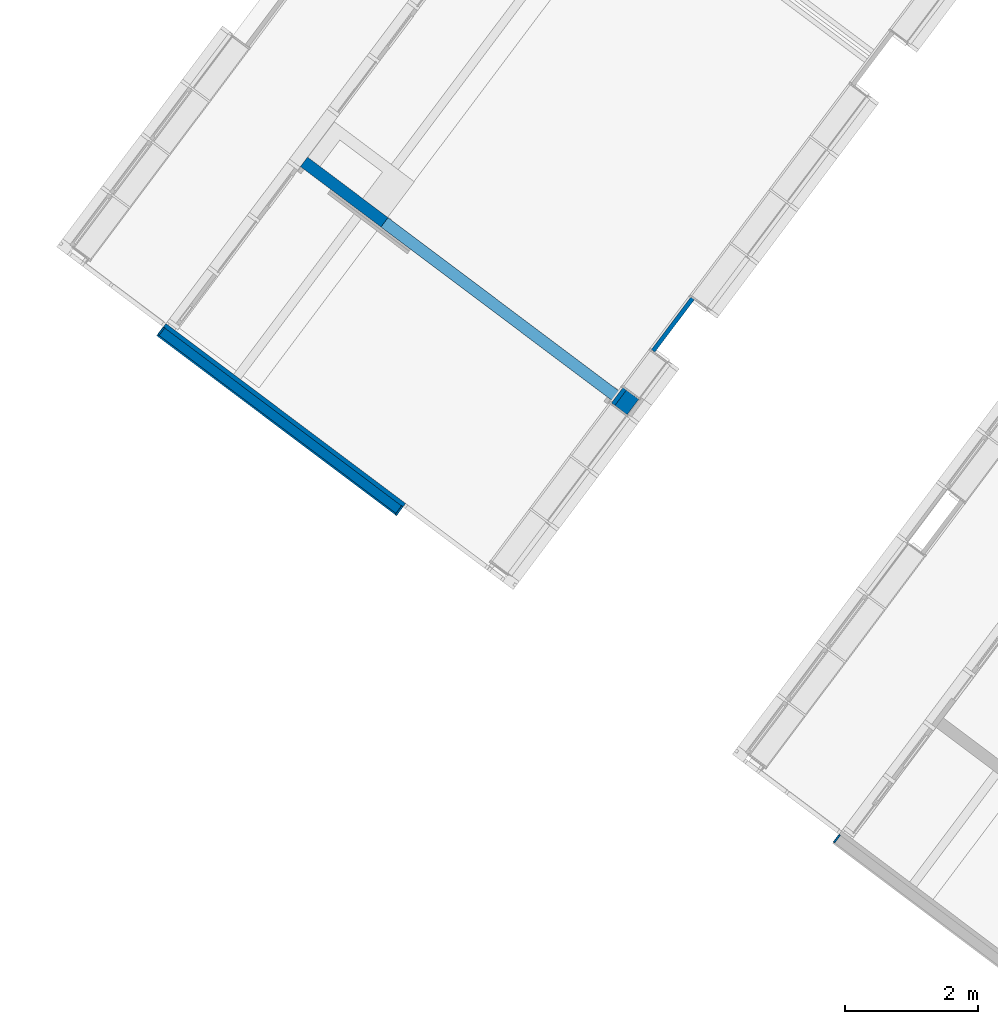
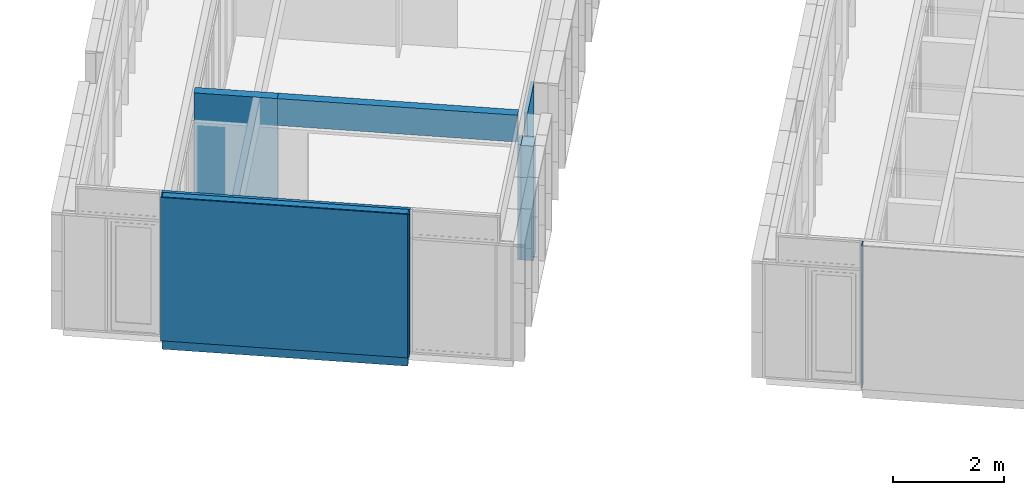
# One storey, part 116 of 243: 11 walls.
"""IFC2X3 building model written with IfcOpenShell, lengths in metres."""

from ifc_helpers import new_model, entity, si_unit, converted_unit, derived_unit, direction, frame, frame_2d, origin, place, context, subcontext, project, spatial, rectangle, extrude, material, layer, layer_set, layer_usage, type_object, element, save


model = new_model("IFC2X3")

# Units and contexts
model_context = context("Model", 3, precision=1e-05, world=origin(), true_north=direction((6.123031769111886e-17, 1.0)))
body_context = subcontext(model_context, "Body", "Model", "MODEL_VIEW")
ifc_project = project(units=[si_unit("LENGTHUNIT", "METRE"), si_unit("AREAUNIT", "SQUARE_METRE"), si_unit("VOLUMEUNIT", "CUBIC_METRE"), converted_unit("PLANEANGLEUNIT", "DEGREE", entity("IfcRatioMeasure", 0.017453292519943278), si_unit("PLANEANGLEUNIT", "RADIAN"), dimensions=[0, 0, 0, 0, 0, 0, 0]), si_unit("MASSUNIT", "GRAM", prefix="KILO"), derived_unit("MASSDENSITYUNIT", [(si_unit("MASSUNIT", "GRAM", prefix="KILO"), 1), (si_unit("LENGTHUNIT", "METRE"), -3)]), derived_unit("IONCONCENTRATIONUNIT", [(si_unit("MASSUNIT", "GRAM", prefix="KILO"), 1), (si_unit("LENGTHUNIT", "METRE"), -3)]), derived_unit("MOMENTOFINERTIAUNIT", [(si_unit("LENGTHUNIT", "METRE"), 4)]), si_unit("TIMEUNIT", "SECOND"), si_unit("FREQUENCYUNIT", "HERTZ"), si_unit("THERMODYNAMICTEMPERATUREUNIT", "DEGREE_CELSIUS"), derived_unit("THERMALTRANSMITTANCEUNIT", [(si_unit("MASSUNIT", "GRAM", prefix="KILO"), 1), (si_unit("THERMODYNAMICTEMPERATUREUNIT", "KELVIN"), -1), (si_unit("TIMEUNIT", "SECOND"), -3)]), derived_unit("THERMALCONDUCTANCEUNIT", [(si_unit("MASSUNIT", "GRAM", prefix="KILO"), 1), (si_unit("THERMODYNAMICTEMPERATUREUNIT", "KELVIN"), -1), (si_unit("TIMEUNIT", "SECOND"), -3), (si_unit("LENGTHUNIT", "METRE"), 1)]), derived_unit("VOLUMETRICFLOWRATEUNIT", [(si_unit("LENGTHUNIT", "METRE"), 3), (si_unit("TIMEUNIT", "SECOND"), -1)]), derived_unit("MASSFLOWRATEUNIT", [(si_unit("MASSUNIT", "GRAM", prefix="KILO"), 1), (si_unit("TIMEUNIT", "SECOND"), -1)]), derived_unit("ROTATIONALFREQUENCYUNIT", [(si_unit("TIMEUNIT", "SECOND"), -1)]), si_unit("ELECTRICCURRENTUNIT", "AMPERE"), si_unit("ELECTRICVOLTAGEUNIT", "VOLT"), si_unit("POWERUNIT", "WATT"), si_unit("FORCEUNIT", "NEWTON", prefix="KILO"), si_unit("ILLUMINANCEUNIT", "LUX"), si_unit("LUMINOUSFLUXUNIT", "LUMEN"), si_unit("LUMINOUSINTENSITYUNIT", "CANDELA"), derived_unit("USERDEFINED", [(si_unit("MASSUNIT", "GRAM", prefix="KILO"), -1), (si_unit("LENGTHUNIT", "METRE"), -2), (si_unit("TIMEUNIT", "SECOND"), 3), (si_unit("LUMINOUSFLUXUNIT", "LUMEN"), 1)]), derived_unit("USERDEFINED", [(si_unit("MASSUNIT", "GRAM", prefix="KILO"), 1), (si_unit("TIMEUNIT", "SECOND"), -3), (si_unit("LENGTHUNIT", "METRE"), 3), (si_unit("ELECTRICCURRENTUNIT", "AMPERE"), -2)]), derived_unit("SOUNDPOWERUNIT", [(si_unit("MASSUNIT", "GRAM", prefix="KILO"), 1), (si_unit("TIMEUNIT", "SECOND"), -3), (si_unit("LENGTHUNIT", "METRE"), 2)]), derived_unit("SOUNDPRESSUREUNIT", [(si_unit("MASSUNIT", "GRAM", prefix="KILO"), 1), (si_unit("LENGTHUNIT", "METRE"), -1), (si_unit("TIMEUNIT", "SECOND"), -2)]), derived_unit("LINEARVELOCITYUNIT", [(si_unit("LENGTHUNIT", "METRE"), 1), (si_unit("TIMEUNIT", "SECOND"), -1)]), si_unit("PRESSUREUNIT", "PASCAL"), derived_unit("USERDEFINED", [(si_unit("MASSUNIT", "GRAM", prefix="KILO"), 1), (si_unit("LENGTHUNIT", "METRE"), -2), (si_unit("TIMEUNIT", "SECOND"), -2)]), derived_unit("LINEARFORCEUNIT", [(si_unit("MASSUNIT", "GRAM", prefix="KILO"), 1), (si_unit("TIMEUNIT", "SECOND"), -2)]), derived_unit("PLANARFORCEUNIT", [(si_unit("MASSUNIT", "GRAM", prefix="KILO"), 1), (si_unit("LENGTHUNIT", "METRE"), -1), (si_unit("TIMEUNIT", "SECOND"), -2)]), derived_unit("SPECIFICHEATCAPACITYUNIT", [(si_unit("THERMODYNAMICTEMPERATUREUNIT", "KELVIN"), -1), (si_unit("LENGTHUNIT", "METRE"), 2), (si_unit("TIMEUNIT", "SECOND"), -2)]), derived_unit("HEATINGVALUEUNIT", [(si_unit("LENGTHUNIT", "METRE"), 2), (si_unit("TIMEUNIT", "SECOND"), -2)]), derived_unit("VAPORPERMEABILITYUNIT", [(si_unit("LENGTHUNIT", "METRE"), -1), (si_unit("TIMEUNIT", "SECOND"), 1)]), derived_unit("DYNAMICVISCOSITYUNIT", [(si_unit("MASSUNIT", "GRAM", prefix="KILO"), 1), (si_unit("TIMEUNIT", "SECOND"), -1), (si_unit("LENGTHUNIT", "METRE"), -1)]), derived_unit("THERMALEXPANSIONCOEFFICIENTUNIT", [(si_unit("THERMODYNAMICTEMPERATUREUNIT", "KELVIN"), -1)]), derived_unit("MODULUSOFELASTICITYUNIT", [(si_unit("MASSUNIT", "GRAM", prefix="KILO"), 1), (si_unit("LENGTHUNIT", "METRE"), -1), (si_unit("TIMEUNIT", "SECOND"), -2)]), derived_unit("ISOTHERMALMOISTURECAPACITYUNIT", [(si_unit("LENGTHUNIT", "METRE"), 3), (si_unit("MASSUNIT", "GRAM", prefix="KILO"), -1)]), derived_unit("MOISTUREDIFFUSIVITYUNIT", [(si_unit("TIMEUNIT", "SECOND"), -1), (si_unit("LENGTHUNIT", "METRE"), 2)])], contexts=[model_context])

# Site, building, storey
site_placement = place(None, frame((0.0, 0.0, 235.0), z_axis=(0.0, 0.0, 1.0), x_axis=(-0.7996477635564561, 0.6004693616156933, 0.0)))
site = spatial("IfcSite", under=ifc_project, at=site_placement, Name="Default", CompositionType="ELEMENT")
building_placement = place(site_placement, origin())
building = spatial("IfcBuilding", under=site, at=building_placement, CompositionType="ELEMENT")
storey_placement = place(building_placement, origin())
storey = spatial("IfcBuildingStorey", under=building, at=storey_placement, Name="P0- Escola", CompositionType="ELEMENT", Elevation=0.0)

# Walls
ifc_material_1 = material(Name="_Ceràmica- ENV")
ifc_layer_1 = layer(ifc_material_1, 0.14)
ifc_layer_set_1 = layer_set([ifc_layer_1], Name="Muro básico:ENV- Ceràmic- 14 cm")
ifc_layer_usage_1 = layer_usage(ifc_layer_set_1, "AXIS2", "NEGATIVE", 0.07)
wall_type_1 = type_object("IfcWallType", Name="Muro básico:ENV- Ceràmic- 14 cm", PredefinedType="STANDARD", material=ifc_layer_set_1)
wall_1_placement = place(storey_placement, frame((43.00014360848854, -20.21894175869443, -0.2)))
element("IfcWallStandardCase", 1, at=wall_1_placement, inside=storey, type_object=wall_type_1, material=ifc_layer_usage_1, Name="Muro básico:ENV- Ceràmic- 14 cm", ObjectType="Muro básico:ENV- Ceràmic- 14 cm", context=body_context, shape_type="SweptSolid", body=[
    extrude(rectangle(XDim=4.4550040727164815, YDim=0.14000000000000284, at=frame_2d((2.2275020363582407, -1.1449174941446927e-15), x_axis=(-1.0, 0.0))), origin(), (0.0, 0.0, 1.0), 3.350000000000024),
])
ifc_material_2 = material(Name="_Guix laminat- ENV")
ifc_layer_2 = layer(ifc_material_2, 0.02)
ifc_material_3 = material(Name="_Aillament")
ifc_layer_3 = layer(ifc_material_3, 0.045)
ifc_layer_set_2 = layer_set([ifc_layer_2, ifc_layer_3], Name="Muro básico:REV- Guix Laminat Extradossat- Aillament- T1- 6,5 cm")
ifc_layer_usage_2 = layer_usage(ifc_layer_set_2, "AXIS2", "NEGATIVE", 0.032499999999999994)
wall_type_2 = type_object("IfcWallType", Name="Muro básico:REV- Guix Laminat Extradossat- Aillament- T1- 6,5 cm", PredefinedType="STANDARD", material=ifc_layer_set_2)
wall_2_placement = place(storey_placement, frame((41.377647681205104, -24.42019175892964, 0.0), z_axis=(0.0, 0.0, 1.0), x_axis=(0.0, -1.0, 0.0)))
element("IfcWallStandardCase", 2, at=wall_2_placement, inside=storey, type_object=wall_type_2, material=ifc_layer_usage_2, Name="Muro básico:REV- Guix Laminat Extradossat- Aillament- T1- 6,5 cm", ObjectType="Muro básico:REV- Guix Laminat Extradossat- Aillament- T1- 6,5 cm", context=body_context, shape_type="SweptSolid", body=[
    extrude(rectangle(XDim=0.9900000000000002, YDim=0.06500000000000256, at=frame_2d((0.4950000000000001, -1.4467593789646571e-15), x_axis=(-1.0, 0.0))), origin(), (0.0, 0.0, 1.0), 2.535000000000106),
])
wall_3_placement = place(storey_placement, frame((41.377647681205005, -23.420191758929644, 0.0), z_axis=(0.0, 0.0, 1.0), x_axis=(0.0, -1.0, 0.0)))
element("IfcWallStandardCase", 3, at=wall_3_placement, inside=storey, type_object=wall_type_2, material=ifc_layer_usage_2, Name="Muro básico:REV- Guix Laminat Extradossat- Aillament- T1- 6,5 cm", ObjectType="Muro básico:REV- Guix Laminat Extradossat- Aillament- T1- 6,5 cm", context=body_context, shape_type="SweptSolid", body=[
    extrude(rectangle(XDim=0.29000000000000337, YDim=0.06500000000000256, at=frame_2d((0.14500000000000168, -4.2327252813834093e-16), x_axis=(-1.0, 0.0))), origin(), (0.0, 0.0, 1.0), 2.535000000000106),
])
ifc_layer_usage_3 = layer_usage(ifc_layer_set_2, "AXIS2", "POSITIVE", -0.032499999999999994)
wall_4_placement = place(storey_placement, frame((42.97514360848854, -20.321441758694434, 0.0)))
element("IfcWallStandardCase", 4, at=wall_4_placement, inside=storey, type_object=wall_type_2, material=ifc_layer_usage_3, Name="Muro básico:REV- Guix Laminat Extradossat- Aillament- T1- 6,5 cm", ObjectType="Muro básico:REV- Guix Laminat Extradossat- Aillament- T1- 6,5 cm", context=body_context, shape_type="SweptSolid", body=[
    extrude(rectangle(XDim=4.5050040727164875, YDim=0.06500000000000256, at=frame_2d((2.2525020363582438, 4.163336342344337e-17), x_axis=(-1.0, 0.0))), origin(), (0.0, 0.0, 1.0), 3.150000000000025),
])
ifc_layer_4 = layer(ifc_material_1, 0.23)
ifc_layer_set_3 = layer_set([ifc_layer_4], Name="Muro básico:ENV- Ceràmic Replè- 23 cm")
ifc_layer_usage_4 = layer_usage(ifc_layer_set_3, "AXIS2", "POSITIVE", -0.115)
wall_type_3 = type_object("IfcWallType", Name="Muro básico:ENV- Ceràmic Replè- 23 cm", PredefinedType="STANDARD", material=ifc_layer_set_3)
wall_5_placement = place(storey_placement, frame((41.2301476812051, -23.420191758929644, 0.0), z_axis=(0.0, 0.0, 1.0), x_axis=(0.0, -1.0, 0.0)))
element("IfcWallStandardCase", 5, at=wall_5_placement, inside=storey, type_object=wall_type_3, material=ifc_layer_usage_4, Name="Muro básico:ENV- Ceràmic Replè- 23 cm", ObjectType="Muro básico:ENV- Ceràmic Replè- 23 cm", context=body_context, shape_type="SweptSolid", body=[
    extrude(rectangle(XDim=0.29000000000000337, YDim=0.2299999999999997, at=frame_2d((0.14500000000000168, 0.0), x_axis=(-1.0, 0.0))), origin(), (0.0, 0.0, 1.0), 2.514054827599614),
])
ifc_material_4 = material(Name="_Enrajolat Gresite- REV- PAV")
ifc_layer_5 = layer(ifc_material_4, 0.01)
ifc_material_5 = material(Name="_Morter Base - REV")
ifc_layer_6 = layer(ifc_material_5, 0.015)
ifc_layer_set_4 = layer_set([ifc_layer_5, ifc_layer_6], Name="Muro básico:REV- Enrajolat peces pasta vitrea- T1- int- 2,5 cm")
ifc_layer_usage_5 = layer_usage(ifc_layer_set_4, "AXIS2", "NEGATIVE", 0.0125)
wall_type_4 = type_object("IfcWallType", Name="Muro básico:REV- Enrajolat peces pasta vitrea- T1- int- 2,5 cm", PredefinedType="STANDARD", material=ifc_layer_set_4)
wall_6_placement = place(storey_placement, frame((42.98764360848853, -20.288941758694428, 0.0), z_axis=(0.0, 0.0, 1.0), x_axis=(0.0, 1.0, 0.0)))
element("IfcWallStandardCase", 6, at=wall_6_placement, inside=storey, type_object=wall_type_4, material=ifc_layer_usage_5, Name="Muro básico:REV- Enrajolat peces pasta vitrea- T1- int- 2,5 cm", ObjectType="Muro básico:REV- Enrajolat peces pasta vitrea- T1- int- 2,5 cm", context=body_context, shape_type="SweptSolid", body=[
    extrude(rectangle(XDim=0.16500000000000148, YDim=0.02499999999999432, at=frame_2d((0.08250000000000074, 0.0), x_axis=(-1.0, 0.0))), origin(), (0.0, 0.0, 1.0), 3.150000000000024),
])
wall_7_placement = place(storey_placement, frame((43.00014360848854, -20.136441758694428, 0.0)))
element("IfcWallStandardCase", 7, at=wall_7_placement, inside=storey, type_object=wall_type_4, material=ifc_layer_usage_5, Name="Muro básico:REV- Enrajolat peces pasta vitrea- T1- int- 2,5 cm", ObjectType="Muro básico:REV- Enrajolat peces pasta vitrea- T1- int- 2,5 cm", context=body_context, shape_type="SweptSolid", body=[
    extrude(rectangle(XDim=4.4800040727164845, YDim=0.025000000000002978, at=frame_2d((2.2400020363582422, 6.591949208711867e-17), x_axis=(-1.0, 0.0))), origin(), (0.0, 0.0, 1.0), 3.150000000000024),
])
wall_8_placement = place(storey_placement, frame((47.46764768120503, -20.148941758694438, 0.0), z_axis=(0.0, 0.0, 1.0), x_axis=(0.0, -1.0, 0.0)))
element("IfcWallStandardCase", 8, at=wall_8_placement, inside=storey, type_object=wall_type_4, material=ifc_layer_usage_5, Name="Muro básico:REV- Enrajolat peces pasta vitrea- T1- int- 2,5 cm", ObjectType="Muro básico:REV- Enrajolat peces pasta vitrea- T1- int- 2,5 cm", context=body_context, shape_type="SweptSolid", body=[
    extrude(rectangle(XDim=0.14000000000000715, YDim=0.02499999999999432, at=frame_2d((0.07000000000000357, 0.0), x_axis=(-1.0, 0.0))), origin(), (0.0, 0.0, 1.0), 3.150000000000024),
])
wall_9_placement = place(storey_placement, frame((34.76764768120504, -20.148941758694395, 0.0), z_axis=(0.0, 0.0, 1.0), x_axis=(0.0, -1.0, 0.0)))
element("IfcWallStandardCase", 9, at=wall_9_placement, inside=storey, type_object=wall_type_4, material=ifc_layer_usage_5, Name="Muro básico:REV- Enrajolat peces pasta vitrea- T1- int- 2,5 cm", ObjectType="Muro básico:REV- Enrajolat peces pasta vitrea- T1- int- 2,5 cm", context=body_context, shape_type="SweptSolid", body=[
    extrude(rectangle(XDim=0.14000000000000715, YDim=0.025000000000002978, at=frame_2d((0.07000000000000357, 0.0), x_axis=(-1.0, 0.0))), origin(), (0.0, 0.0, 1.0), 3.150000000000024),
])
ifc_layer_7 = layer(ifc_material_2, 0.03)
ifc_material_6 = material(Name="_Genèric perfils, muntants, rastrells")
ifc_layer_8 = layer(ifc_material_6, 0.046)
ifc_layer_9 = layer(ifc_material_2, 0.025)
ifc_layer_10 = layer(ifc_material_6, 0.046)
ifc_layer_11 = layer(ifc_material_2, 0.03)
ifc_layer_set_5 = layer_set([ifc_layer_7, ifc_layer_8, ifc_layer_9, ifc_layer_10, ifc_layer_11], Name="Muro básico:ENV- Guix Laminat- 17 cm")
ifc_layer_usage_6 = layer_usage(ifc_layer_set_5, "AXIS2", "NEGATIVE", 0.0885)
wall_type_5 = type_object("IfcWallType", Name="Muro básico:ENV- Guix Laminat- 17 cm", PredefinedType="STANDARD", material=ifc_layer_set_5)
wall_10_placement = place(storey_placement, frame((47.280147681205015, -23.542689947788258, 0.0), z_axis=(0.0, 0.0, 1.0), x_axis=(-1.0, 0.0, 0.0)))
element("IfcWallStandardCase", 10, at=wall_10_placement, inside=storey, type_object=wall_type_5, material=ifc_layer_usage_6, Name="Muro básico:ENV- Guix Laminat- 17 cm", ObjectType="Muro básico:ENV- Guix Laminat- 17 cm", context=body_context, shape_type="SweptSolid", body=[
    extrude(rectangle(XDim=1.5132553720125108, YDim=0.1770000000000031, at=frame_2d((0.7566276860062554, 1.1449174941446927e-15), x_axis=(-1.0, 0.0))), origin(), (0.0, 0.0, 1.0), 3.150000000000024),
])
wall_11_placement = place(storey_placement, frame((45.76689230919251, -23.542689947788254, 2.5600000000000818), z_axis=(0.0, 0.0, 1.0), x_axis=(-1.0, 0.0, 0.0)))
element("IfcWallStandardCase", 11, at=wall_11_placement, inside=storey, type_object=wall_type_5, material=ifc_layer_usage_6, Name="Muro básico:ENV- Guix Laminat- 17 cm", ObjectType="Muro básico:ENV- Guix Laminat- 17 cm", context=body_context, shape_type="SweptSolid", body=[
    extrude(rectangle(XDim=4.3567446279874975, YDim=0.17700000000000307, at=frame_2d((2.1783723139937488, 0.0), x_axis=(-1.0, 0.0))), origin(), (0.0, 0.0, 1.0), 0.5899999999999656),
])

save(model, "model.ifc")
